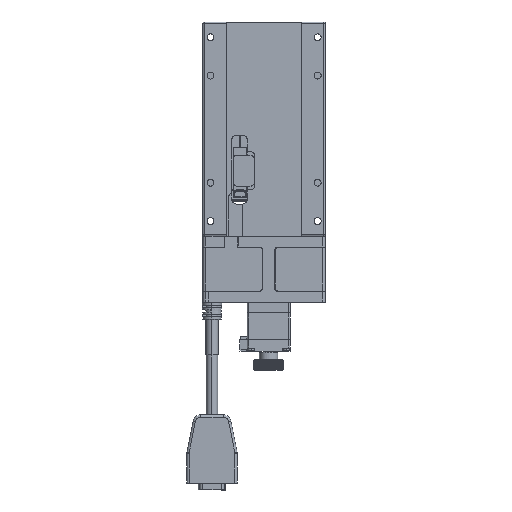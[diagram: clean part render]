
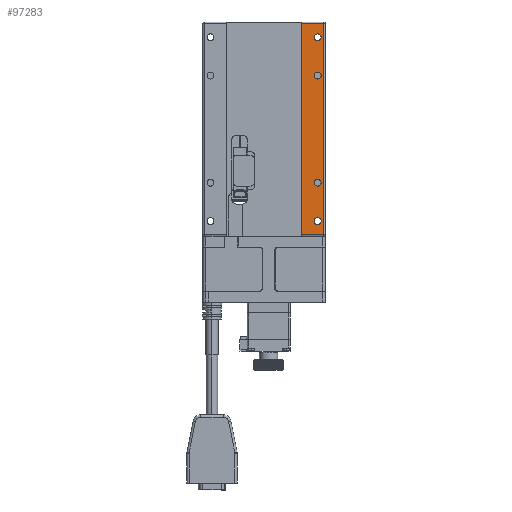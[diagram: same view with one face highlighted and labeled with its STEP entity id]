
A CAD part, front view. The second image highlights one B-rep face of the part: STEP entity #97283.
In plain terms, the highlighted planar face has unit normal (0, -1, 0).
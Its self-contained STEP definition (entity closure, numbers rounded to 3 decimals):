
#137 = EDGE_CURVE ( 'NONE', #82409, #61002, #13643, .T. ) ;
#1696 = EDGE_LOOP ( 'NONE', ( #85952, #66983 ) ) ;
#3680 = EDGE_LOOP ( 'NONE', ( #29315, #72847 ) ) ;
#7028 = ORIENTED_EDGE ( 'NONE', *, *, #23735, .T. ) ;
#11176 = EDGE_LOOP ( 'NONE', ( #26156, #77948 ) ) ;
#12158 = FACE_OUTER_BOUND ( 'NONE', #94877, .T. ) ;
#12523 = DIRECTION ( 'NONE',  ( 0., 0., 1. ) ) ;
#12759 = FACE_BOUND ( 'NONE', #27034, .T. ) ;
#13643 = CIRCLE ( 'NONE', #41353, 2.25 ) ;
#13699 = EDGE_CURVE ( 'NONE', #77768, #18267, #64524, .T. ) ;
#14121 = EDGE_CURVE ( 'NONE', #61002, #82409, #115053, .T. ) ;
#14126 = AXIS2_PLACEMENT_3D ( 'NONE', #102433, #26857, #47863 ) ;
#14411 = DIRECTION ( 'NONE',  ( 0., 0., -1. ) ) ;
#14919 = VERTEX_POINT ( 'NONE', #15779 ) ;
#15610 = CARTESIAN_POINT ( 'NONE',  ( 35., 0., -128.621 ) ) ;
#15779 = CARTESIAN_POINT ( 'NONE',  ( 35., 0., -6.371 ) ) ;
#16827 = CARTESIAN_POINT ( 'NONE',  ( 24.5, 0., 0.379 ) ) ;
#18046 = DIRECTION ( 'NONE',  ( 0., 1., 0. ) ) ;
#18267 = VERTEX_POINT ( 'NONE', #39156 ) ;
#18306 = VECTOR ( 'NONE', #26158, 1000. ) ;
#19953 = AXIS2_PLACEMENT_3D ( 'NONE', #33844, #90831, #101355 ) ;
#21437 = CARTESIAN_POINT ( 'NONE',  ( 39., 0., 0.379 ) ) ;
#22123 = ORIENTED_EDGE ( 'NONE', *, *, #112856, .T. ) ;
#23735 = EDGE_CURVE ( 'NONE', #80125, #60714, #49995, .T. ) ;
#23932 = CARTESIAN_POINT ( 'NONE',  ( 24.5, 0., -138.621 ) ) ;
#24548 = CARTESIAN_POINT ( 'NONE',  ( 35., 0., -10.871 ) ) ;
#25912 = ORIENTED_EDGE ( 'NONE', *, *, #97356, .T. ) ;
#26142 = EDGE_CURVE ( 'NONE', #14919, #109660, #112121, .T. ) ;
#26156 = ORIENTED_EDGE ( 'NONE', *, *, #90470, .T. ) ;
#26158 = DIRECTION ( 'NONE',  ( -1., 0., 0. ) ) ;
#26857 = DIRECTION ( 'NONE',  ( 0., 1., 0. ) ) ;
#27034 = EDGE_LOOP ( 'NONE', ( #33786, #25912 ) ) ;
#28974 = CARTESIAN_POINT ( 'NONE',  ( 24.5, 0., -137.621 ) ) ;
#29315 = ORIENTED_EDGE ( 'NONE', *, *, #38274, .T. ) ;
#29330 = DIRECTION ( 'NONE',  ( 0., 0., -1. ) ) ;
#29446 = CARTESIAN_POINT ( 'NONE',  ( 35., 0., -126.371 ) ) ;
#29929 = CARTESIAN_POINT ( 'NONE',  ( 39., 0., -138.621 ) ) ;
#30694 = CARTESIAN_POINT ( 'NONE',  ( 35., 0., -31.371 ) ) ;
#31297 = VECTOR ( 'NONE', #12523, 1000. ) ;
#32410 = CARTESIAN_POINT ( 'NONE',  ( 35., 0., -8.621 ) ) ;
#33786 = ORIENTED_EDGE ( 'NONE', *, *, #118868, .T. ) ;
#33844 = CARTESIAN_POINT ( 'NONE',  ( 35., 0., -128.621 ) ) ;
#34108 = VECTOR ( 'NONE', #105159, 1000. ) ;
#35910 = DIRECTION ( 'NONE',  ( 0., 1., 0. ) ) ;
#38274 = EDGE_CURVE ( 'NONE', #84090, #85681, #39919, .T. ) ;
#38618 = DIRECTION ( 'NONE',  ( 0., 1., 0. ) ) ;
#39156 = CARTESIAN_POINT ( 'NONE',  ( 24.5, 0., 0.379 ) ) ;
#39919 = CIRCLE ( 'NONE', #103249, 2.25 ) ;
#41353 = AXIS2_PLACEMENT_3D ( 'NONE', #73892, #99303, #14411 ) ;
#46389 = ORIENTED_EDGE ( 'NONE', *, *, #97245, .F. ) ;
#46830 = AXIS2_PLACEMENT_3D ( 'NONE', #32410, #86951, #105535 ) ;
#46946 = AXIS2_PLACEMENT_3D ( 'NONE', #15610, #90601, #80076 ) ;
#47863 = DIRECTION ( 'NONE',  ( 0., 0., -1. ) ) ;
#48973 = CIRCLE ( 'NONE', #46946, 2.25 ) ;
#49107 = LINE ( 'NONE', #29929, #31297 ) ;
#49346 = CARTESIAN_POINT ( 'NONE',  ( 24.5, 0., -138.621 ) ) ;
#49717 = AXIS2_PLACEMENT_3D ( 'NONE', #75537, #35910, #73106 ) ;
#49788 = CIRCLE ( 'NONE', #14126, 2.25 ) ;
#49995 = LINE ( 'NONE', #115049, #34108 ) ;
#59258 = FACE_BOUND ( 'NONE', #3680, .T. ) ;
#59676 = VECTOR ( 'NONE', #106359, 1000. ) ;
#60714 = VERTEX_POINT ( 'NONE', #101836 ) ;
#61002 = VERTEX_POINT ( 'NONE', #102296 ) ;
#64524 = LINE ( 'NONE', #16827, #18306 ) ;
#64660 = CARTESIAN_POINT ( 'NONE',  ( 35., 0., -35.871 ) ) ;
#66983 = ORIENTED_EDGE ( 'NONE', *, *, #137, .T. ) ;
#67680 = CARTESIAN_POINT ( 'NONE',  ( 35., 0., -101.371 ) ) ;
#71188 = CIRCLE ( 'NONE', #102845, 2.25 ) ;
#72847 = ORIENTED_EDGE ( 'NONE', *, *, #95305, .T. ) ;
#72869 = DIRECTION ( 'NONE',  ( 1., 0., 0. ) ) ;
#73106 = DIRECTION ( 'NONE',  ( 0., 0., -1. ) ) ;
#73856 = DIRECTION ( 'NONE',  ( 0., 0., -1. ) ) ;
#73892 = CARTESIAN_POINT ( 'NONE',  ( 35., 0., -103.621 ) ) ;
#75537 = CARTESIAN_POINT ( 'NONE',  ( 35., 0., -103.621 ) ) ;
#77254 = FACE_BOUND ( 'NONE', #1696, .T. ) ;
#77768 = VERTEX_POINT ( 'NONE', #21437 ) ;
#77948 = ORIENTED_EDGE ( 'NONE', *, *, #26142, .T. ) ;
#78477 = LINE ( 'NONE', #49346, #59676 ) ;
#78600 = VERTEX_POINT ( 'NONE', #88526 ) ;
#80076 = DIRECTION ( 'NONE',  ( 0., 0., -1. ) ) ;
#80125 = VERTEX_POINT ( 'NONE', #28974 ) ;
#80922 = PLANE ( 'NONE',  #107170 ) ;
#82409 = VERTEX_POINT ( 'NONE', #67680 ) ;
#83142 = VERTEX_POINT ( 'NONE', #29446 ) ;
#84090 = VERTEX_POINT ( 'NONE', #64660 ) ;
#84349 = CARTESIAN_POINT ( 'NONE',  ( 35., 0., -33.621 ) ) ;
#85681 = VERTEX_POINT ( 'NONE', #30694 ) ;
#85952 = ORIENTED_EDGE ( 'NONE', *, *, #14121, .T. ) ;
#86951 = DIRECTION ( 'NONE',  ( 0., 1., 0. ) ) ;
#88526 = CARTESIAN_POINT ( 'NONE',  ( 35., 0., -130.871 ) ) ;
#89594 = DIRECTION ( 'NONE',  ( 0., 1., 0. ) ) ;
#90470 = EDGE_CURVE ( 'NONE', #109660, #14919, #49788, .T. ) ;
#90601 = DIRECTION ( 'NONE',  ( 0., 1., 0. ) ) ;
#90831 = DIRECTION ( 'NONE',  ( 0., 1., 0. ) ) ;
#94877 = EDGE_LOOP ( 'NONE', ( #46389, #7028, #22123, #121534 ) ) ;
#95305 = EDGE_CURVE ( 'NONE', #85681, #84090, #71188, .T. ) ;
#97245 = EDGE_CURVE ( 'NONE', #80125, #18267, #78477, .T. ) ;
#97283 = ADVANCED_FACE ( 'NONE', ( #12759, #77254, #59258, #115024, #12158 ), #80922, .F. ) ;
#97356 = EDGE_CURVE ( 'NONE', #83142, #78600, #103019, .T. ) ;
#99303 = DIRECTION ( 'NONE',  ( 0., 1., 0. ) ) ;
#101355 = DIRECTION ( 'NONE',  ( 0., 0., -1. ) ) ;
#101836 = CARTESIAN_POINT ( 'NONE',  ( 39., 0., -137.621 ) ) ;
#102296 = CARTESIAN_POINT ( 'NONE',  ( 35., 0., -105.871 ) ) ;
#102433 = CARTESIAN_POINT ( 'NONE',  ( 35., 0., -8.621 ) ) ;
#102845 = AXIS2_PLACEMENT_3D ( 'NONE', #114199, #38618, #29330 ) ;
#103019 = CIRCLE ( 'NONE', #19953, 2.25 ) ;
#103249 = AXIS2_PLACEMENT_3D ( 'NONE', #84349, #18046, #73856 ) ;
#105159 = DIRECTION ( 'NONE',  ( 1., 0., 0. ) ) ;
#105535 = DIRECTION ( 'NONE',  ( 0., 0., -1. ) ) ;
#106359 = DIRECTION ( 'NONE',  ( 0., 0., 1. ) ) ;
#107170 = AXIS2_PLACEMENT_3D ( 'NONE', #23932, #89594, #72869 ) ;
#109660 = VERTEX_POINT ( 'NONE', #24548 ) ;
#112121 = CIRCLE ( 'NONE', #46830, 2.25 ) ;
#112856 = EDGE_CURVE ( 'NONE', #60714, #77768, #49107, .T. ) ;
#114199 = CARTESIAN_POINT ( 'NONE',  ( 35., 0., -33.621 ) ) ;
#115024 = FACE_BOUND ( 'NONE', #11176, .T. ) ;
#115049 = CARTESIAN_POINT ( 'NONE',  ( 24.5, 0., -137.621 ) ) ;
#115053 = CIRCLE ( 'NONE', #49717, 2.25 ) ;
#118868 = EDGE_CURVE ( 'NONE', #78600, #83142, #48973, .T. ) ;
#121534 = ORIENTED_EDGE ( 'NONE', *, *, #13699, .T. ) ;
